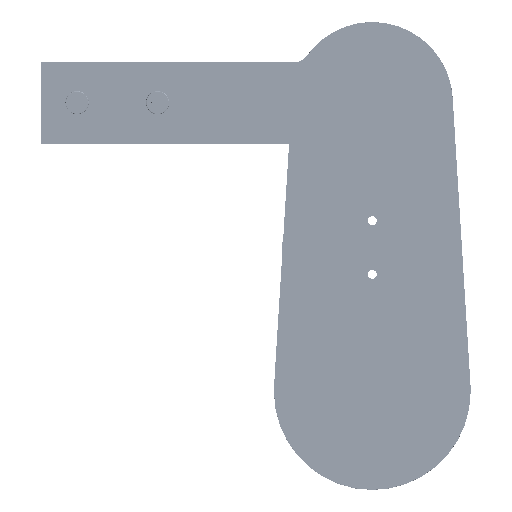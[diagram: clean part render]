
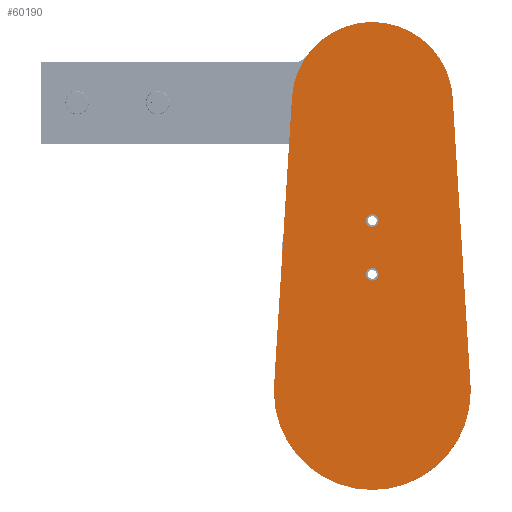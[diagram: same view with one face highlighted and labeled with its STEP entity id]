
A CAD part, top view. The second image highlights one B-rep face of the part: STEP entity #60190.
In plain terms, the highlighted planar face has unit normal (0, 0, 1) as drawn and (0, 0, -1) by its records, which use the part's own axes.
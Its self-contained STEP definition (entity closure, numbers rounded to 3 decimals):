
#1006 = ORIENTED_EDGE ( 'NONE', *, *, #3745, .F. ) ;
#1007 = ORIENTED_EDGE ( 'NONE', *, *, #3704, .F. ) ;
#1008 = ORIENTED_EDGE ( 'NONE', *, *, #3741, .F. ) ;
#1009 = ORIENTED_EDGE ( 'NONE', *, *, #3703, .F. ) ;
#1010 = ORIENTED_EDGE ( 'NONE', *, *, #3715, .F. ) ;
#1011 = ORIENTED_EDGE ( 'NONE', *, *, #3706, .F. ) ;
#1012 = ORIENTED_EDGE ( 'NONE', *, *, #3728, .F. ) ;
#1013 = ORIENTED_EDGE ( 'NONE', *, *, #3724, .F. ) ;
#1014 = ORIENTED_EDGE ( 'NONE', *, *, #3707, .F. ) ;
#1015 = ORIENTED_EDGE ( 'NONE', *, *, #3711, .F. ) ;
#2205 = EDGE_LOOP ( 'NONE', ( #1006, #1007 ) ) ;
#2210 = EDGE_LOOP ( 'NONE', ( #1010, #1011, #1012, #1013, #1014, #1015 ) ) ;
#2211 = EDGE_LOOP ( 'NONE', ( #1008, #1009 ) ) ;
#3002 = CIRCLE ( 'NONE', #4034, 3.5 ) ;
#3008 = CIRCLE ( 'NONE', #4035, 3.5 ) ;
#3010 = LINE ( 'NONE', #5601, #3015 ) ;
#3012 = CIRCLE ( 'NONE', #4036, 55. ) ;
#3015 = VECTOR ( 'NONE', #5605, 1000. ) ;
#3020 = LINE ( 'NONE', #5617, #3023 ) ;
#3023 = VECTOR ( 'NONE', #5619, 1000. ) ;
#3027 = CIRCLE ( 'NONE', #4039, 45. ) ;
#3039 = CIRCLE ( 'NONE', #4046, 55. ) ;
#3044 = CIRCLE ( 'NONE', #4048, 55. ) ;
#3063 = CIRCLE ( 'NONE', #4055, 3.5 ) ;
#3069 = CIRCLE ( 'NONE', #4057, 3.5 ) ;
#3703 = EDGE_CURVE ( 'NONE', #39204, #39209, #3002, .T. ) ;
#3704 = EDGE_CURVE ( 'NONE', #39203, #39202, #3008, .T. ) ;
#3706 = EDGE_CURVE ( 'NONE', #39222, #39226, #3010, .T. ) ;
#3707 = EDGE_CURVE ( 'NONE', #39227, #39224, #3012, .T. ) ;
#3711 = EDGE_CURVE ( 'NONE', #39225, #39227, #3020, .T. ) ;
#3715 = EDGE_CURVE ( 'NONE', #39226, #39225, #3027, .T. ) ;
#3724 = EDGE_CURVE ( 'NONE', #39224, #39221, #3039, .T. ) ;
#3728 = EDGE_CURVE ( 'NONE', #39221, #39222, #3044, .T. ) ;
#3741 = EDGE_CURVE ( 'NONE', #39209, #39204, #3063, .T. ) ;
#3745 = EDGE_CURVE ( 'NONE', #39202, #39203, #3069, .T. ) ;
#4034 = AXIS2_PLACEMENT_3D ( 'NONE', #5598, #5599, #5600 ) ;
#4035 = AXIS2_PLACEMENT_3D ( 'NONE', #5602, #5603, #5604 ) ;
#4036 = AXIS2_PLACEMENT_3D ( 'NONE', #5608, #5609, #5610 ) ;
#4039 = AXIS2_PLACEMENT_3D ( 'NONE', #5625, #5626, #5627 ) ;
#4046 = AXIS2_PLACEMENT_3D ( 'NONE', #5654, #5655, #5656 ) ;
#4048 = AXIS2_PLACEMENT_3D ( 'NONE', #5664, #5665, #5666 ) ;
#4055 = AXIS2_PLACEMENT_3D ( 'NONE', #5696, #5697, #5698 ) ;
#4057 = AXIS2_PLACEMENT_3D ( 'NONE', #5706, #5707, #5708 ) ;
#5598 = CARTESIAN_POINT ( 'NONE',  ( 0., 65.5, 0. ) ) ;
#5599 = DIRECTION ( 'NONE',  ( 0., 0., -1. ) ) ;
#5600 = DIRECTION ( 'NONE',  ( 1., 0., 0. ) ) ;
#5601 = CARTESIAN_POINT ( 'NONE',  ( 44.914, 164.286, 0. ) ) ;
#5602 = CARTESIAN_POINT ( 'NONE',  ( 0., 95.5, 0. ) ) ;
#5603 = DIRECTION ( 'NONE',  ( 0., 0., -1. ) ) ;
#5604 = DIRECTION ( 'NONE',  ( 1., 0., 0. ) ) ;
#5605 = DIRECTION ( 'NONE',  ( -0.062, 0.998, 0. ) ) ;
#5608 = CARTESIAN_POINT ( 'NONE',  ( 0., 0., 0. ) ) ;
#5609 = DIRECTION ( 'NONE',  ( 0., 0., 1. ) ) ;
#5610 = DIRECTION ( 'NONE',  ( 1., 0., 0. ) ) ;
#5617 = CARTESIAN_POINT ( 'NONE',  ( -44.914, 164.286, 0. ) ) ;
#5619 = DIRECTION ( 'NONE',  ( -0.062, -0.998, 0. ) ) ;
#5625 = CARTESIAN_POINT ( 'NONE',  ( 0., 161.5, 0. ) ) ;
#5626 = DIRECTION ( 'NONE',  ( 0., 0., 1. ) ) ;
#5627 = DIRECTION ( 'NONE',  ( 1., 0., 0. ) ) ;
#5654 = CARTESIAN_POINT ( 'NONE',  ( 0., 0., 0. ) ) ;
#5655 = DIRECTION ( 'NONE',  ( 0., 0., 1. ) ) ;
#5656 = DIRECTION ( 'NONE',  ( 1., 0., 0. ) ) ;
#5664 = CARTESIAN_POINT ( 'NONE',  ( 0., 0., 0. ) ) ;
#5665 = DIRECTION ( 'NONE',  ( 0., 0., 1. ) ) ;
#5666 = DIRECTION ( 'NONE',  ( 1., 0., 0. ) ) ;
#5696 = CARTESIAN_POINT ( 'NONE',  ( 0., 65.5, 0. ) ) ;
#5697 = DIRECTION ( 'NONE',  ( 0., 0., -1. ) ) ;
#5698 = DIRECTION ( 'NONE',  ( 1., 0., 0. ) ) ;
#5706 = CARTESIAN_POINT ( 'NONE',  ( 0., 95.5, 0. ) ) ;
#5707 = DIRECTION ( 'NONE',  ( 0., 0., -1. ) ) ;
#5708 = DIRECTION ( 'NONE',  ( 1., 0., 0. ) ) ;
#25360 = AXIS2_PLACEMENT_3D ( 'NONE', #36554, #36551, #36558 ) ;
#31030 = CARTESIAN_POINT ( 'NONE',  ( 3.5, 95.5, 0. ) ) ;
#31031 = CARTESIAN_POINT ( 'NONE',  ( -3.5, 95.5, 0. ) ) ;
#31032 = CARTESIAN_POINT ( 'NONE',  ( -3.5, 65.5, 0. ) ) ;
#31037 = CARTESIAN_POINT ( 'NONE',  ( 3.5, 65.5, 0. ) ) ;
#31049 = CARTESIAN_POINT ( 'NONE',  ( 55., 0., 0. ) ) ;
#31050 = CARTESIAN_POINT ( 'NONE',  ( 54.894, 3.406, 0. ) ) ;
#31052 = CARTESIAN_POINT ( 'NONE',  ( -55., 0., 0. ) ) ;
#31053 = CARTESIAN_POINT ( 'NONE',  ( -44.914, 164.286, 0. ) ) ;
#31054 = CARTESIAN_POINT ( 'NONE',  ( 44.914, 164.286, 0. ) ) ;
#31055 = CARTESIAN_POINT ( 'NONE',  ( -54.894, 3.406, 0. ) ) ;
#35034 = FACE_OUTER_BOUND ( 'NONE', #2210, .T. ) ;
#35035 = FACE_BOUND ( 'NONE', #2205, .T. ) ;
#35038 = FACE_BOUND ( 'NONE', #2211, .T. ) ;
#36551 = DIRECTION ( 'NONE',  ( 0., 0., 1. ) ) ;
#36554 = CARTESIAN_POINT ( 'NONE',  ( 0., 161.5, 0. ) ) ;
#36556 = PLANE ( 'NONE',  #25360 ) ;
#36558 = DIRECTION ( 'NONE',  ( 1., 0., 0. ) ) ;
#39202 = VERTEX_POINT ( 'NONE', #31030 ) ;
#39203 = VERTEX_POINT ( 'NONE', #31031 ) ;
#39204 = VERTEX_POINT ( 'NONE', #31032 ) ;
#39209 = VERTEX_POINT ( 'NONE', #31037 ) ;
#39221 = VERTEX_POINT ( 'NONE', #31049 ) ;
#39222 = VERTEX_POINT ( 'NONE', #31050 ) ;
#39224 = VERTEX_POINT ( 'NONE', #31052 ) ;
#39225 = VERTEX_POINT ( 'NONE', #31053 ) ;
#39226 = VERTEX_POINT ( 'NONE', #31054 ) ;
#39227 = VERTEX_POINT ( 'NONE', #31055 ) ;
#60190 = ADVANCED_FACE ( 'NONE', ( #35035, #35038, #35034 ), #36556, .F. ) ;
